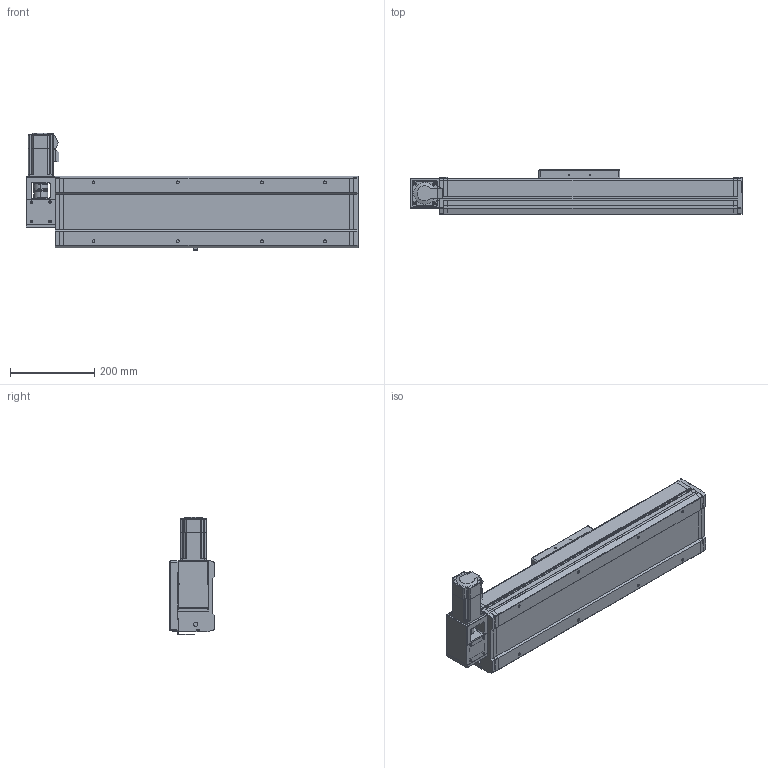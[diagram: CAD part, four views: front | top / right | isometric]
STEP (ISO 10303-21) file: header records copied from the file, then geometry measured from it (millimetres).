
FILE_DESCRIPTION((''),'2;1');
FILE_NAME('170-TZJ3FL-S400_ASM','2015-12-04T',('lenovo'),(''),'PRO/ENGINEER BY PARAMETRIC TECHNOLOGY CORPORATION, 2010280','PRO/ENGINEER BY PARAMETRIC TECHNOLOGY CORPORATION, 2010280','');
FILE_SCHEMA(('CONFIG_CONTROL_DESIGN'));
Length unit declared in the file: millimetre
Products named in the file (5): 170-TJFL-DZ; 170-HK; 170-HDB-01; 170-TZJ3FL-DJZ; 170-TZJ3FL-S400_ASM
Assembly tree (4 placements, depth 2):
  170-TZJ3FL-S400_ASM
    170-TJFL-DZ
    170-HK
    170-HDB-01
    170-TZJ3FL-DJZ
Bounding box: 789 x 107 x 278.5 mm (x, y, z)
Volume: 6343440.5 mm3; surface area: 1007935.5 mm2
Topology: 6 solids, 30 shells, 1468 faces, 3997 edges, 2665 vertices
Faces by surface type: plane 788, cylinder 539, cone 113, torus 28
Entity records: 47099 total; most frequent: CARTESIAN_POINT 8413, DIRECTION 8260, ORIENTED_EDGE 7994, EDGE_CURVE 3997, AXIS2_PLACEMENT_3D 2828, VERTEX_POINT 2665, VECTOR 2604, LINE 2604
